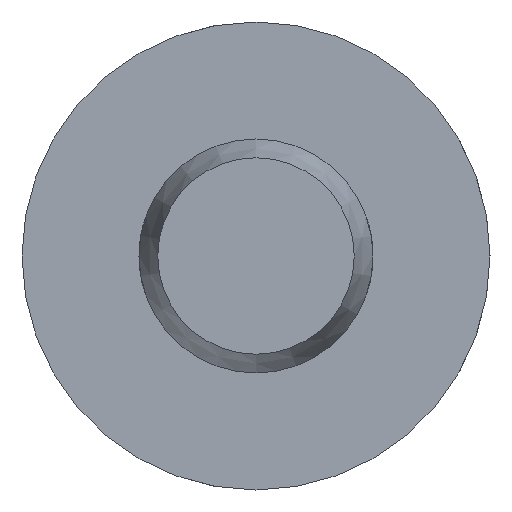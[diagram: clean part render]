
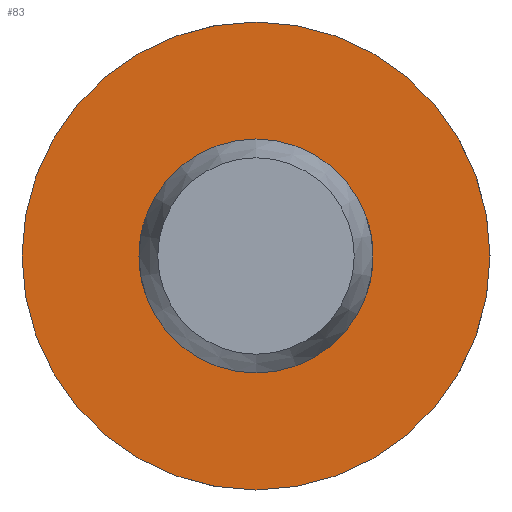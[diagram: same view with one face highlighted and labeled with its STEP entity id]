
A CAD part, left-side view. The second image highlights one B-rep face of the part: STEP entity #83.
In plain terms, the highlighted planar face has unit normal (-1, 0, 0).
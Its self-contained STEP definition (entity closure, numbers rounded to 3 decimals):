
#83 = ADVANCED_FACE( '', ( #129, #130 ), #131, .F. );
#129 = FACE_OUTER_BOUND( '', #208, .T. );
#130 = FACE_BOUND( '', #209, .T. );
#131 = PLANE( '', #210 );
#208 = EDGE_LOOP( '', ( #325 ) );
#209 = EDGE_LOOP( '', ( #326 ) );
#210 = AXIS2_PLACEMENT_3D( '', #327, #328, #329 );
#325 = ORIENTED_EDGE( '', *, *, #493, .F. );
#326 = ORIENTED_EDGE( '', *, *, #483, .T. );
#327 = CARTESIAN_POINT( '', ( 16., 2.5, 0. ) );
#328 = DIRECTION( '', ( 1., 0., 0. ) );
#329 = DIRECTION( '', ( 0., 0., -1. ) );
#483 = EDGE_CURVE( '', #554, #554, #555, .T. );
#493 = EDGE_CURVE( '', #572, #572, #573, .T. );
#554 = VERTEX_POINT( '', #741 );
#555 = CIRCLE( '', #742, 2.5 );
#572 = VERTEX_POINT( '', #842 );
#573 = CIRCLE( '', #843, 5. );
#741 = CARTESIAN_POINT( '', ( 16., 0., -2.5 ) );
#742 = AXIS2_PLACEMENT_3D( '', #906, #907, #908 );
#842 = CARTESIAN_POINT( '', ( 16., 0., -5. ) );
#843 = AXIS2_PLACEMENT_3D( '', #927, #928, #929 );
#906 = CARTESIAN_POINT( '', ( 16., 0., 0. ) );
#907 = DIRECTION( '', ( 1., 0., 0. ) );
#908 = DIRECTION( '', ( 0., 0., -1. ) );
#927 = CARTESIAN_POINT( '', ( 16., 0., 0. ) );
#928 = DIRECTION( '', ( 1., 0., 0. ) );
#929 = DIRECTION( '', ( 0., 0., -1. ) );
